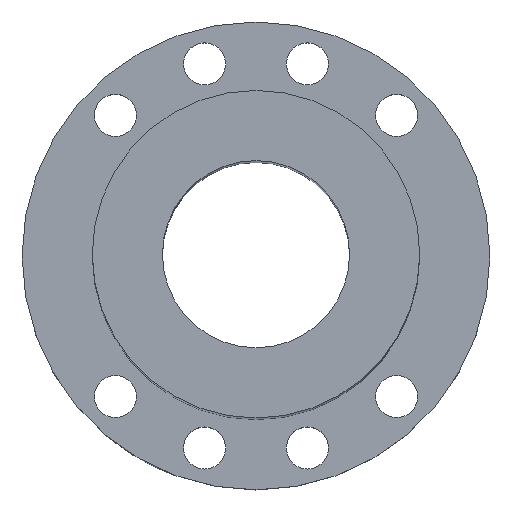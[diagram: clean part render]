
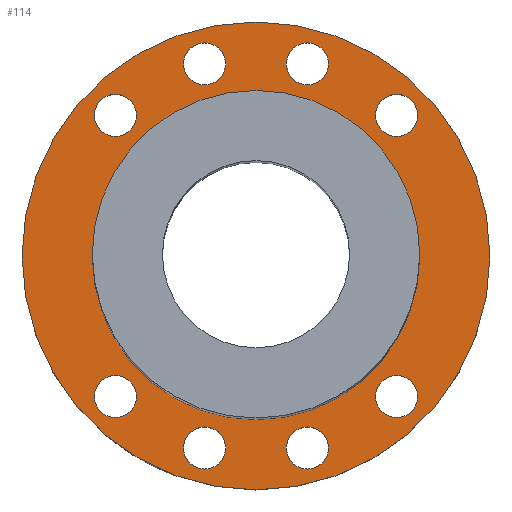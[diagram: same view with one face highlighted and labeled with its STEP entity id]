
A CAD part, top view. The second image highlights one B-rep face of the part: STEP entity #114.
In plain terms, the highlighted planar face has unit normal (0, 0, 1).
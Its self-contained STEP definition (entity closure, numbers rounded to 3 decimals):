
#99=PLANE('',#401);
#114=ADVANCED_FACE('',(#169,#170,#171,#172,#173,#174,#175,#176,#177,#178),
#99,.T.);
#169=FACE_BOUND('',#221,.T.);
#170=FACE_BOUND('',#222,.T.);
#171=FACE_BOUND('',#223,.T.);
#172=FACE_BOUND('',#224,.T.);
#173=FACE_BOUND('',#225,.T.);
#174=FACE_BOUND('',#226,.T.);
#175=FACE_BOUND('',#227,.T.);
#176=FACE_BOUND('',#228,.T.);
#177=FACE_BOUND('',#229,.T.);
#178=FACE_BOUND('',#230,.T.);
#221=EDGE_LOOP('',(#273));
#222=EDGE_LOOP('',(#274));
#223=EDGE_LOOP('',(#275));
#224=EDGE_LOOP('',(#276));
#225=EDGE_LOOP('',(#277));
#226=EDGE_LOOP('',(#278));
#227=EDGE_LOOP('',(#279));
#228=EDGE_LOOP('',(#280));
#229=EDGE_LOOP('',(#281));
#230=EDGE_LOOP('',(#282));
#273=ORIENTED_EDGE('',*,*,#316,.T.);
#274=ORIENTED_EDGE('',*,*,#337,.F.);
#275=ORIENTED_EDGE('',*,*,#336,.F.);
#276=ORIENTED_EDGE('',*,*,#335,.F.);
#277=ORIENTED_EDGE('',*,*,#334,.T.);
#278=ORIENTED_EDGE('',*,*,#333,.F.);
#279=ORIENTED_EDGE('',*,*,#318,.T.);
#280=ORIENTED_EDGE('',*,*,#332,.T.);
#281=ORIENTED_EDGE('',*,*,#331,.T.);
#282=ORIENTED_EDGE('',*,*,#338,.T.);
#290=VERTEX_POINT('',#495);
#292=VERTEX_POINT('',#557);
#305=VERTEX_POINT('',#644);
#306=VERTEX_POINT('',#647);
#307=VERTEX_POINT('',#650);
#308=VERTEX_POINT('',#653);
#309=VERTEX_POINT('',#656);
#310=VERTEX_POINT('',#659);
#311=VERTEX_POINT('',#662);
#312=VERTEX_POINT('',#665);
#316=EDGE_CURVE('',#290,#290,#342,.T.);
#318=EDGE_CURVE('',#292,#292,#343,.T.);
#331=EDGE_CURVE('',#305,#305,#355,.T.);
#332=EDGE_CURVE('',#306,#306,#356,.T.);
#333=EDGE_CURVE('',#307,#307,#357,.T.);
#334=EDGE_CURVE('',#308,#308,#358,.T.);
#335=EDGE_CURVE('',#309,#309,#359,.T.);
#336=EDGE_CURVE('',#310,#310,#360,.T.);
#337=EDGE_CURVE('',#311,#311,#361,.T.);
#338=EDGE_CURVE('',#312,#312,#362,.T.);
#342=CIRCLE('',#367,50.);
#343=CIRCLE('',#369,35.);
#355=CIRCLE('',#385,4.5);
#356=CIRCLE('',#387,4.5);
#357=CIRCLE('',#389,4.5);
#358=CIRCLE('',#391,4.5);
#359=CIRCLE('',#393,4.5);
#360=CIRCLE('',#395,4.5);
#361=CIRCLE('',#397,4.5);
#362=CIRCLE('',#399,4.5);
#367=AXIS2_PLACEMENT_3D('',#494,#411,#412);
#369=AXIS2_PLACEMENT_3D('',#556,#415,#416);
#385=AXIS2_PLACEMENT_3D('',#643,#447,#448);
#387=AXIS2_PLACEMENT_3D('',#646,#451,#452);
#389=AXIS2_PLACEMENT_3D('',#649,#455,#456);
#391=AXIS2_PLACEMENT_3D('',#652,#459,#460);
#393=AXIS2_PLACEMENT_3D('',#655,#463,#464);
#395=AXIS2_PLACEMENT_3D('',#658,#467,#468);
#397=AXIS2_PLACEMENT_3D('',#661,#471,#472);
#399=AXIS2_PLACEMENT_3D('',#664,#475,#476);
#401=AXIS2_PLACEMENT_3D('',#667,#479,#480);
#411=DIRECTION('',(0.,0.,1.));
#412=DIRECTION('',(1.,0.,0.));
#415=DIRECTION('',(0.,0.,-1.));
#416=DIRECTION('',(1.,0.,0.));
#447=DIRECTION('',(0.,0.,-1.));
#448=DIRECTION('',(-1.,0.,0.));
#451=DIRECTION('',(0.,0.,-1.));
#452=DIRECTION('',(1.,0.,0.));
#455=DIRECTION('',(0.,0.,1.));
#456=DIRECTION('',(-1.,0.,0.));
#459=DIRECTION('',(0.,0.,-1.));
#460=DIRECTION('',(1.,0.,0.));
#463=DIRECTION('',(0.,0.,1.));
#464=DIRECTION('',(1.,0.,0.));
#467=DIRECTION('',(0.,0.,1.));
#468=DIRECTION('',(1.,0.,0.));
#471=DIRECTION('',(0.,0.,1.));
#472=DIRECTION('',(-1.,0.,0.));
#475=DIRECTION('',(0.,0.,-1.));
#476=DIRECTION('',(-1.,0.,0.));
#479=DIRECTION('',(0.,0.,1.));
#480=DIRECTION('',(1.,0.,0.));
#494=CARTESIAN_POINT('',(0.,0.,14.));
#495=CARTESIAN_POINT('',(50.,0.,14.));
#556=CARTESIAN_POINT('',(0.,0.,14.));
#557=CARTESIAN_POINT('',(35.,0.,14.));
#643=CARTESIAN_POINT('',(11.,41.052,14.));
#644=CARTESIAN_POINT('',(6.5,41.052,14.));
#646=CARTESIAN_POINT('',(-30.052,-30.052,14.));
#647=CARTESIAN_POINT('',(-25.552,-30.052,14.));
#649=CARTESIAN_POINT('',(11.,-41.052,14.));
#650=CARTESIAN_POINT('',(6.5,-41.052,14.));
#652=CARTESIAN_POINT('',(-11.,-41.052,14.));
#653=CARTESIAN_POINT('',(-6.5,-41.052,14.));
#655=CARTESIAN_POINT('',(-11.,41.052,14.));
#656=CARTESIAN_POINT('',(-6.5,41.052,14.));
#658=CARTESIAN_POINT('',(-30.052,30.052,14.));
#659=CARTESIAN_POINT('',(-25.552,30.052,14.));
#661=CARTESIAN_POINT('',(30.052,-30.052,14.));
#662=CARTESIAN_POINT('',(25.552,-30.052,14.));
#664=CARTESIAN_POINT('',(30.052,30.052,14.));
#665=CARTESIAN_POINT('',(25.552,30.052,14.));
#667=CARTESIAN_POINT('',(15.026,-15.026,14.));
